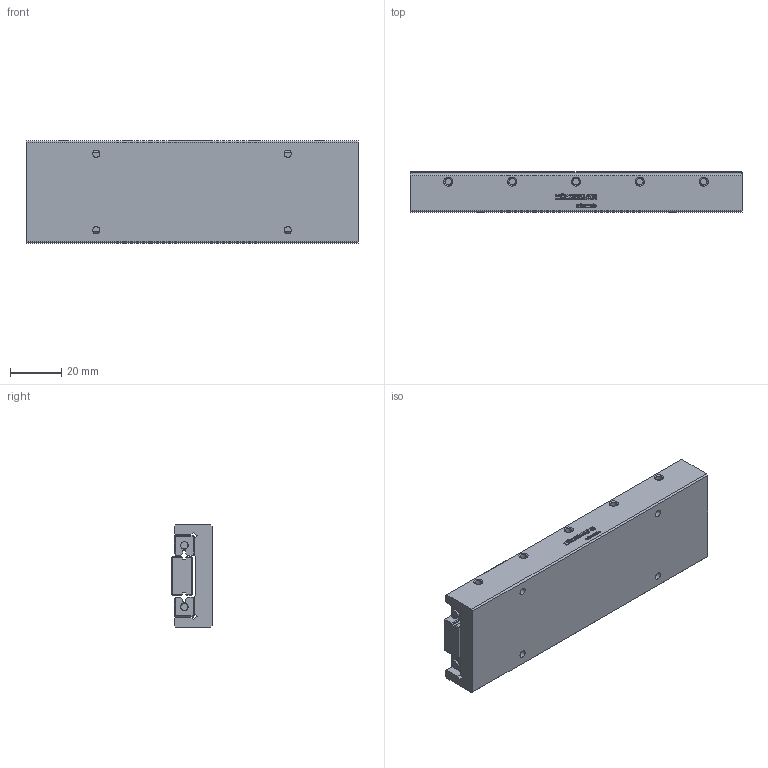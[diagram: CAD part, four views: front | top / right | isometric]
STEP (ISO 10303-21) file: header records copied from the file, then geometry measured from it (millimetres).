
FILE_DESCRIPTION(/* description */ ('STEP AP214'),/* implementation_level */ '2;1');
FILE_NAME(/* name */ 'ND 3-130.75(0)',/* time_stamp */ '2025-04-22T17:44:51+02:00',/* author */ ('License CC BY-ND 4.0'),/* organization */ ('CADENAS'),/* preprocessor_version */ 'ST-DEVELOPER v19.3',/* originating_system */ 'PARTsolutions',/* authorisation */ ' ');
FILE_SCHEMA (('AUTOMOTIVE_DESIGN {1 0 10303 214 3 1 1}'));
Length unit declared in the file: millimetre
Products named in the file (4): ND 3-130.75(0); ND 3-130.75+SQ+OF_(0)_1; ND 3-130.75+SQ+OF_(0)_2; ND 3-130.75+SQ+OF_(0)_3
Assembly tree (4 placements, depth 2):
  ND 3-130.75(0)
    ND 3-130.75+SQ+OF_(0)_1
    ND 3-130.75+SQ+OF_(0)_2
    ND 3-130.75+SQ+OF_(0)_3  x2
Bounding box: 130 x 16 x 40 mm (x, y, z)
Volume: 70428 mm3; surface area: 33742.4 mm2
Topology: 4 solids, 4 shells, 662 faces, 1807 edges, 1194 vertices
Faces by surface type: cylinder 332, plane 297, cone 29, torus 4
Full cylindrical faces by diameter (mm): 1.49 x4, 2.611 x5, 2.85 x4, 3 x10, 5.6 x10, 6.647 x5
Entity records: 19601 total; most frequent: DIRECTION 3542, CARTESIAN_POINT 3365, ORIENTED_EDGE 3272, EDGE_CURVE 1636, AXIS2_PLACEMENT_3D 1291, VERTEX_POINT 1114, LINE 960, VECTOR 960
